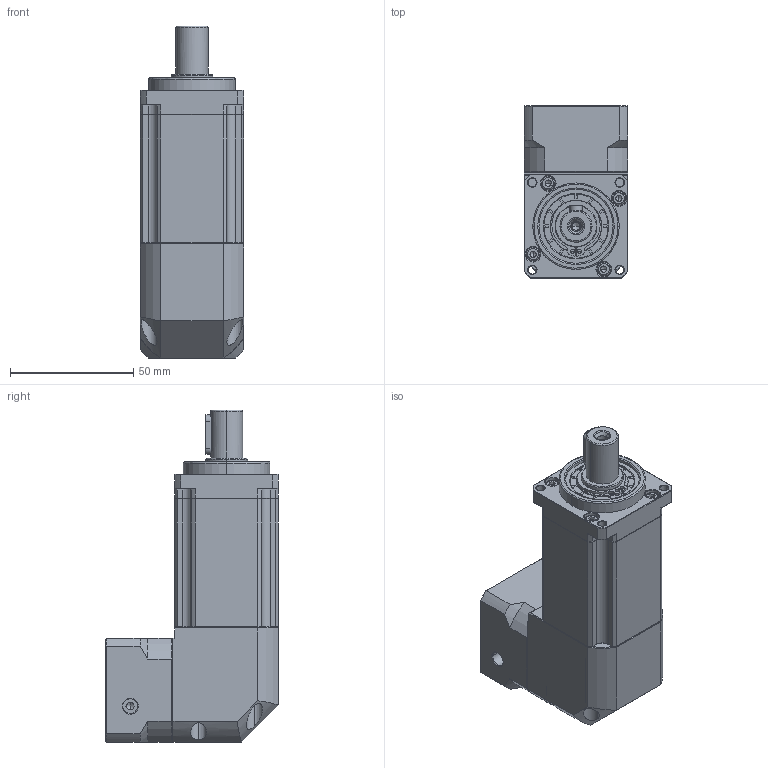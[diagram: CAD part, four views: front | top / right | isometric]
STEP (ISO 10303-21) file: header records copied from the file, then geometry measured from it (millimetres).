
FILE_DESCRIPTION (( 'STEP AP214' ), '1' );
FILE_NAME ('ZBR042-D13-L3-P2-8-30-46-M4.STEP', '2023-08-15T12:21:04', ( '' ), ( '' ), 'SwSTEP 2.0', 'SolidWorks 2016', '' );
FILE_SCHEMA (( 'AUTOMOTIVE_DESIGN' ));
Length unit declared in the file: millimetre
Products named in the file (1): ZBR042-D13-L3-P2-8-30-46-M4
Bounding box: 42 x 70 x 134.5 mm (x, y, z)
Volume: 205195.7 mm3; surface area: 45883 mm2
Topology: 7 solids, 7 shells, 2156 faces, 5779 edges, 3725 vertices
Faces by surface type: plane 1062, bspline 421, cylinder 405, cone 268
Entity records: 119756 total; most frequent: CARTESIAN_POINT 45774, ORIENTED_EDGE 11514, DIRECTION 8663, EDGE_CURVE 5757, VERTEX_POINT 3725, VECTOR 3675, LINE 3675, AXIS2_PLACEMENT_3D 2494
